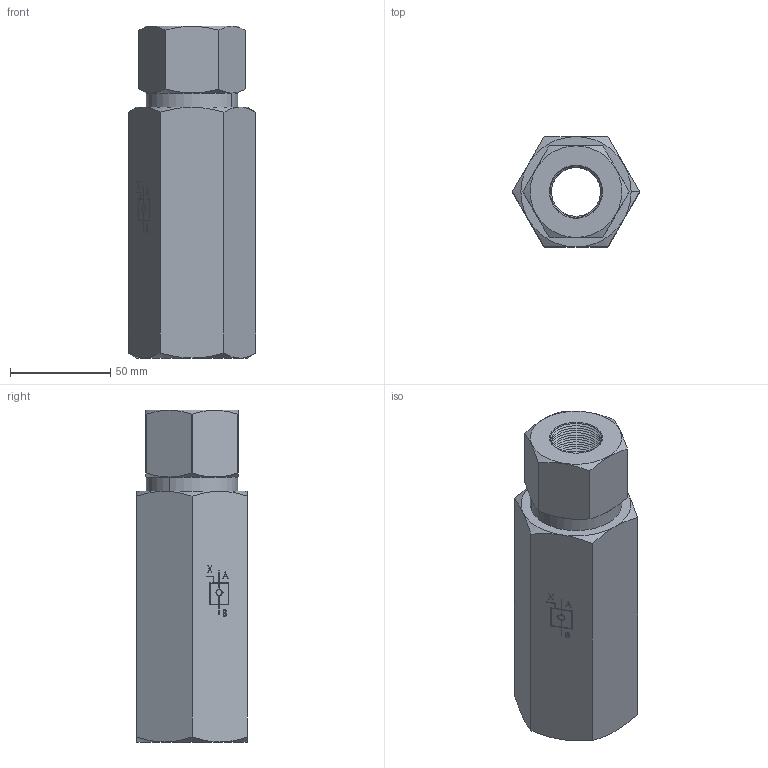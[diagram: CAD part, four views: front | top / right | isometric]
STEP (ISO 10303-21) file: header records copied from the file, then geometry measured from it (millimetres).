
FILE_DESCRIPTION (( 'STEP AP214' ), '1' );
FILE_NAME ('2257-7-34.STEP', '2015-04-08T21:07:32', ( '' ), ( '' ), 'SwSTEP 2.0', 'SolidWorks 2014', '' );
FILE_SCHEMA (( 'AUTOMOTIVE_DESIGN' ));
Length unit declared in the file: millimetre
Products named in the file (1): 2257-7-34
Bounding box: 63.51 x 55 x 165.5 mm (x, y, z)
Surface area: 38563.5 mm2 (no closed solid volume)
Topology: 0 solids, 30 shells, 328 faces, 1098 edges, 740 vertices
Faces by surface type: plane 140, cone 122, bspline 45, cylinder 21
Entity records: 18600 total; most frequent: CARTESIAN_POINT 5948, ORIENTED_EDGE 1742, DIRECTION 1722, EDGE_CURVE 1098, VERTEX_POINT 740, LINE 694, VECTOR 694, AXIS2_PLACEMENT_3D 514
